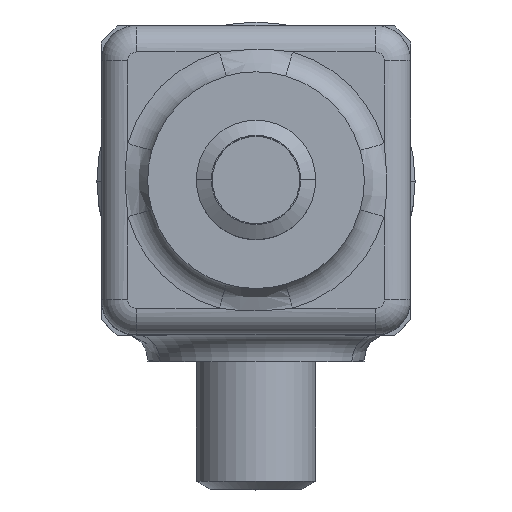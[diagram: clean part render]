
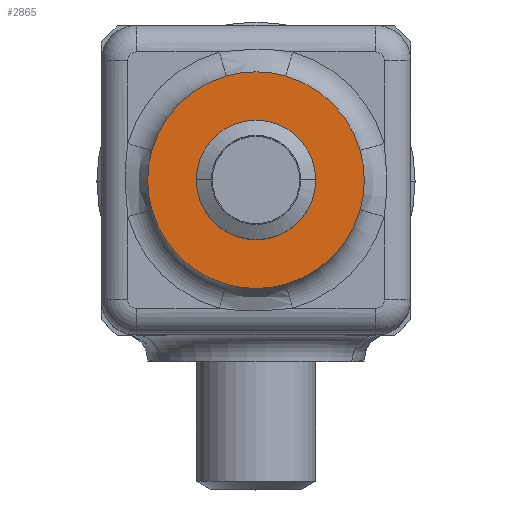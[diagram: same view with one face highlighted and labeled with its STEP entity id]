
A CAD part, top view. The second image highlights one B-rep face of the part: STEP entity #2865.
In plain terms, the highlighted planar face has unit normal (0, 0, 1).
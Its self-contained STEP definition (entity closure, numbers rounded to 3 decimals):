
#285 = CARTESIAN_POINT ( 'NONE',  ( -11.78, -3.36, 35. ) ) ;
#1390 = CIRCLE ( 'NONE', #1391, 12.25 ) ;
#1391 = AXIS2_PLACEMENT_3D ( 'NONE', #1392, #1393, #1394 ) ;
#1392 = CARTESIAN_POINT ( 'NONE',  ( 0., 0., 35. ) ) ;
#1393 = DIRECTION ( 'NONE',  ( 0., 0., 1. ) ) ;
#1394 = DIRECTION ( 'NONE',  ( 1., 0., 0. ) ) ;
#1878 = CARTESIAN_POINT ( 'NONE',  ( 11.78, -3.36, 35. ) ) ;
#1993 = CIRCLE ( 'NONE', #1994, 12.25 ) ;
#1994 = AXIS2_PLACEMENT_3D ( 'NONE', #1995, #1996, #1997 ) ;
#1995 = CARTESIAN_POINT ( 'NONE',  ( 0., 0., 35. ) ) ;
#1996 = DIRECTION ( 'NONE',  ( 0., 0., 1. ) ) ;
#1997 = DIRECTION ( 'NONE',  ( 1., 0., 0. ) ) ;
#2015 = FACE_BOUND ( 'NONE', #2837, .T. ) ;
#2016 = FACE_OUTER_BOUND ( 'NONE', #2714, .T. ) ;
#2017 = PLANE ( 'NONE',  #2018 ) ;
#2018 = AXIS2_PLACEMENT_3D ( 'NONE', #2019, #2020, #2021 ) ;
#2019 = CARTESIAN_POINT ( 'NONE',  ( 0., 0., 35. ) ) ;
#2020 = DIRECTION ( 'NONE',  ( 0., 0., 1. ) ) ;
#2021 = DIRECTION ( 'NONE',  ( 1., 0., 0. ) ) ;
#2134 = VERTEX_POINT ( 'NONE', #4529 ) ;
#2354 = EDGE_CURVE ( 'NONE', #2583, #2134, #4758, .T. ) ;
#2537 = ORIENTED_EDGE ( 'NONE', *, *, #2354, .T. ) ;
#2583 = VERTEX_POINT ( 'NONE', #7009 ) ;
#2599 = VERTEX_POINT ( 'NONE', #8119 ) ;
#2626 = EDGE_CURVE ( 'NONE', #2599, #2583, #8308, .T. ) ;
#2663 = ORIENTED_EDGE ( 'NONE', *, *, #2626, .T. ) ;
#2714 = EDGE_LOOP ( 'NONE', ( #2663, #2537, #3323, #3211, #3108, #2991, #7505, #6443 ) ) ;
#2741 = ORIENTED_EDGE ( 'NONE', *, *, #3076, .F. ) ;
#2787 = ORIENTED_EDGE ( 'NONE', *, *, #3111, .F. ) ;
#2837 = EDGE_LOOP ( 'NONE', ( #2787, #2741 ) ) ;
#2865 = ADVANCED_FACE ( 'NONE', ( #2015, #2016 ), #2017, .T. ) ;
#2940 = VERTEX_POINT ( 'NONE', #4553 ) ;
#2959 = EDGE_CURVE ( 'NONE', #3050, #2940, #4807, .T. ) ;
#2991 = ORIENTED_EDGE ( 'NONE', *, *, #2959, .T. ) ;
#3050 = VERTEX_POINT ( 'NONE', #8163 ) ;
#3067 = VERTEX_POINT ( 'NONE', #8292 ) ;
#3073 = EDGE_CURVE ( 'NONE', #3157, #3050, #8390, .T. ) ;
#3076 = EDGE_CURVE ( 'NONE', #3067, #3085, #8422, .T. ) ;
#3085 = VERTEX_POINT ( 'NONE', #9105 ) ;
#3108 = ORIENTED_EDGE ( 'NONE', *, *, #3073, .T. ) ;
#3111 = EDGE_CURVE ( 'NONE', #3085, #3067, #9358, .T. ) ;
#3157 = VERTEX_POINT ( 'NONE', #285 ) ;
#3176 = EDGE_CURVE ( 'NONE', #3260, #3157, #3431, .T. ) ;
#3211 = ORIENTED_EDGE ( 'NONE', *, *, #3176, .T. ) ;
#3260 = VERTEX_POINT ( 'NONE', #3876 ) ;
#3287 = EDGE_CURVE ( 'NONE', #2134, #3260, #3975, .T. ) ;
#3323 = ORIENTED_EDGE ( 'NONE', *, *, #3287, .T. ) ;
#3431 = CIRCLE ( 'NONE', #3432, 12.25 ) ;
#3432 = AXIS2_PLACEMENT_3D ( 'NONE', #3433, #3434, #3435 ) ;
#3433 = CARTESIAN_POINT ( 'NONE',  ( 0., 0., 35. ) ) ;
#3434 = DIRECTION ( 'NONE',  ( 0., 0., 1. ) ) ;
#3435 = DIRECTION ( 'NONE',  ( 1., 0., 0. ) ) ;
#3876 = CARTESIAN_POINT ( 'NONE',  ( -11.78, 3.36, 35. ) ) ;
#3975 = CIRCLE ( 'NONE', #3976, 12.25 ) ;
#3976 = AXIS2_PLACEMENT_3D ( 'NONE', #3977, #3978, #3979 ) ;
#3977 = CARTESIAN_POINT ( 'NONE',  ( 0., 0., 35. ) ) ;
#3978 = DIRECTION ( 'NONE',  ( 0., 0., 1. ) ) ;
#3979 = DIRECTION ( 'NONE',  ( 1., 0., 0. ) ) ;
#4529 = CARTESIAN_POINT ( 'NONE',  ( -3.36, 11.78, 35. ) ) ;
#4553 = CARTESIAN_POINT ( 'NONE',  ( 3.36, -11.78, 35. ) ) ;
#4758 = CIRCLE ( 'NONE', #4759, 12.25 ) ;
#4759 = AXIS2_PLACEMENT_3D ( 'NONE', #4760, #4761, #4762 ) ;
#4760 = CARTESIAN_POINT ( 'NONE',  ( 0., 0., 35. ) ) ;
#4761 = DIRECTION ( 'NONE',  ( 0., 0., 1. ) ) ;
#4762 = DIRECTION ( 'NONE',  ( 1., 0., 0. ) ) ;
#4807 = CIRCLE ( 'NONE', #4808, 12.25 ) ;
#4808 = AXIS2_PLACEMENT_3D ( 'NONE', #4809, #4810, #4811 ) ;
#4809 = CARTESIAN_POINT ( 'NONE',  ( 0., 0., 35. ) ) ;
#4810 = DIRECTION ( 'NONE',  ( 0., 0., 1. ) ) ;
#4811 = DIRECTION ( 'NONE',  ( 1., 0., 0. ) ) ;
#6084 = EDGE_CURVE ( 'NONE', #6936, #2599, #1390, .T. ) ;
#6443 = ORIENTED_EDGE ( 'NONE', *, *, #6084, .T. ) ;
#6936 = VERTEX_POINT ( 'NONE', #1878 ) ;
#7009 = CARTESIAN_POINT ( 'NONE',  ( 3.36, 11.78, 35. ) ) ;
#7155 = EDGE_CURVE ( 'NONE', #2940, #6936, #1993, .T. ) ;
#7505 = ORIENTED_EDGE ( 'NONE', *, *, #7155, .T. ) ;
#8119 = CARTESIAN_POINT ( 'NONE',  ( 11.78, 3.36, 35. ) ) ;
#8163 = CARTESIAN_POINT ( 'NONE',  ( -3.36, -11.78, 35. ) ) ;
#8292 = CARTESIAN_POINT ( 'NONE',  ( -6.75, 0., 35. ) ) ;
#8308 = CIRCLE ( 'NONE', #8309, 12.25 ) ;
#8309 = AXIS2_PLACEMENT_3D ( 'NONE', #8310, #8311, #8312 ) ;
#8310 = CARTESIAN_POINT ( 'NONE',  ( 0., 0., 35. ) ) ;
#8311 = DIRECTION ( 'NONE',  ( 0., 0., 1. ) ) ;
#8312 = DIRECTION ( 'NONE',  ( 1., 0., 0. ) ) ;
#8390 = CIRCLE ( 'NONE', #8391, 12.25 ) ;
#8391 = AXIS2_PLACEMENT_3D ( 'NONE', #8392, #8393, #8394 ) ;
#8392 = CARTESIAN_POINT ( 'NONE',  ( 0., 0., 35. ) ) ;
#8393 = DIRECTION ( 'NONE',  ( 0., 0., 1. ) ) ;
#8394 = DIRECTION ( 'NONE',  ( 1., 0., 0. ) ) ;
#8422 = CIRCLE ( 'NONE', #8423, 6.75 ) ;
#8423 = AXIS2_PLACEMENT_3D ( 'NONE', #8424, #8425, #8426 ) ;
#8424 = CARTESIAN_POINT ( 'NONE',  ( 0., 0., 35. ) ) ;
#8425 = DIRECTION ( 'NONE',  ( 0., 0., 1. ) ) ;
#8426 = DIRECTION ( 'NONE',  ( 1., 0., 0. ) ) ;
#9105 = CARTESIAN_POINT ( 'NONE',  ( 6.75, 0., 35. ) ) ;
#9358 = CIRCLE ( 'NONE', #9359, 6.75 ) ;
#9359 = AXIS2_PLACEMENT_3D ( 'NONE', #9360, #9362, #9363 ) ;
#9360 = CARTESIAN_POINT ( 'NONE',  ( 0., 0., 35. ) ) ;
#9362 = DIRECTION ( 'NONE',  ( 0., 0., 1. ) ) ;
#9363 = DIRECTION ( 'NONE',  ( 1., 0., 0. ) ) ;
